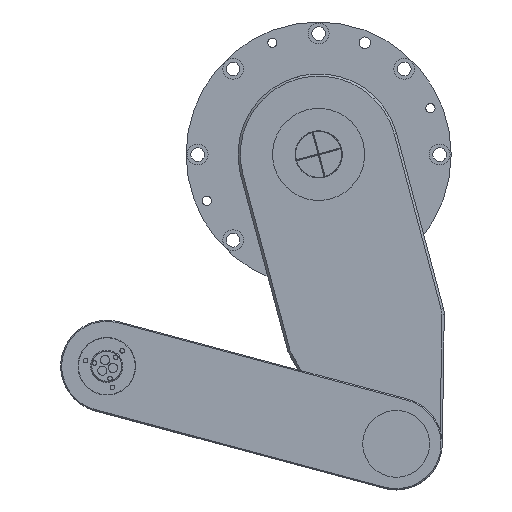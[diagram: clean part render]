
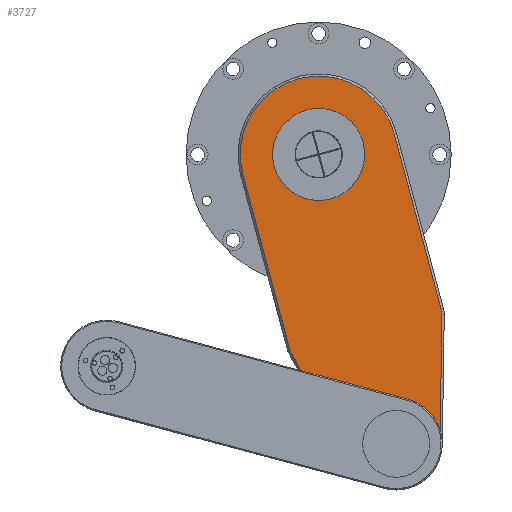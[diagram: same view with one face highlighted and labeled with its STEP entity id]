
A CAD part, top view. The second image highlights one B-rep face of the part: STEP entity #3727.
In plain terms, the highlighted planar face has unit normal (0, 0, 1).
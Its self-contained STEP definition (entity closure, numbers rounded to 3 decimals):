
#216=PLANE('',#4239);
#324=LINE('',#6679,#454);
#330=LINE('',#6694,#460);
#334=LINE('',#6705,#464);
#338=LINE('',#6717,#468);
#454=VECTOR('',#5295,112.539);
#460=VECTOR('',#5309,157.214);
#464=VECTOR('',#5321,157.214);
#468=VECTOR('',#5333,112.539);
#674=FACE_BOUND('',#1392,.T.);
#675=FACE_BOUND('',#1393,.T.);
#941=FACE_OUTER_BOUND('',#1391,.T.);
#1391=EDGE_LOOP('',(#3198,#3199,#3200,#3201,#3202,#3203,#3204,#3205));
#1392=EDGE_LOOP('',(#3206));
#1393=EDGE_LOOP('',(#3207));
#1701=CIRCLE('',#4222,18.);
#1703=CIRCLE('',#4226,68.);
#1705=CIRCLE('',#4230,18.);
#1707=CIRCLE('',#4234,38.);
#1708=CIRCLE('',#4240,40.);
#1709=CIRCLE('',#4241,30.);
#2007=VERTEX_POINT('',#6676);
#2008=VERTEX_POINT('',#6678);
#2010=VERTEX_POINT('',#6684);
#2012=VERTEX_POINT('',#6690);
#2014=VERTEX_POINT('',#6697);
#2015=VERTEX_POINT('',#6701);
#2017=VERTEX_POINT('',#6707);
#2019=VERTEX_POINT('',#6713);
#2021=VERTEX_POINT('',#6731);
#2022=VERTEX_POINT('',#6733);
#2397=EDGE_CURVE('',#2007,#2008,#324,.T.);
#2402=EDGE_CURVE('',#2008,#2010,#1701,.T.);
#2405=EDGE_CURVE('',#2010,#2012,#330,.T.);
#2407=EDGE_CURVE('',#2012,#2014,#1703,.T.);
#2411=EDGE_CURVE('',#2014,#2015,#334,.T.);
#2414=EDGE_CURVE('',#2015,#2017,#1705,.T.);
#2417=EDGE_CURVE('',#2017,#2019,#338,.T.);
#2419=EDGE_CURVE('',#2019,#2007,#1707,.T.);
#2425=EDGE_CURVE('',#2021,#2021,#1708,.T.);
#2426=EDGE_CURVE('',#2022,#2022,#1709,.T.);
#3198=ORIENTED_EDGE('',*,*,#2397,.F.);
#3199=ORIENTED_EDGE('',*,*,#2419,.F.);
#3200=ORIENTED_EDGE('',*,*,#2417,.F.);
#3201=ORIENTED_EDGE('',*,*,#2414,.F.);
#3202=ORIENTED_EDGE('',*,*,#2411,.F.);
#3203=ORIENTED_EDGE('',*,*,#2407,.F.);
#3204=ORIENTED_EDGE('',*,*,#2405,.F.);
#3205=ORIENTED_EDGE('',*,*,#2402,.F.);
#3206=ORIENTED_EDGE('',*,*,#2425,.T.);
#3207=ORIENTED_EDGE('',*,*,#2426,.T.);
#3727=ADVANCED_FACE('',(#941,#674,#675),#216,.T.);
#4222=AXIS2_PLACEMENT_3D('',#6688,#5303,#5304);
#4226=AXIS2_PLACEMENT_3D('',#6698,#5314,#5315);
#4230=AXIS2_PLACEMENT_3D('',#6711,#5327,#5328);
#4234=AXIS2_PLACEMENT_3D('',#6720,#5338,#5339);
#4239=AXIS2_PLACEMENT_3D('',#6730,#5353,#5354);
#4240=AXIS2_PLACEMENT_3D('',#6732,#5355,#5356);
#4241=AXIS2_PLACEMENT_3D('',#6734,#5357,#5358);
#5295=DIRECTION('',(-0.962,-0.273,0.));
#5303=DIRECTION('center_axis',(0.,0.,-1.));
#5304=DIRECTION('ref_axis',(0.,-1.,0.));
#5309=DIRECTION('',(-1.,0.,0.));
#5314=DIRECTION('center_axis',(0.,0.,-1.));
#5315=DIRECTION('ref_axis',(0.,1.,0.));
#5321=DIRECTION('',(1.,0.,0.));
#5327=DIRECTION('center_axis',(0.,0.,-1.));
#5328=DIRECTION('ref_axis',(0.273,0.962,0.));
#5333=DIRECTION('',(0.962,-0.273,0.));
#5338=DIRECTION('center_axis',(0.,0.,-1.));
#5339=DIRECTION('ref_axis',(0.273,-0.962,0.));
#5353=DIRECTION('center_axis',(0.,0.,1.));
#5354=DIRECTION('ref_axis',(1.,0.,0.));
#5355=DIRECTION('center_axis',(0.,0.,-1.));
#5356=DIRECTION('ref_axis',(-1.,0.,0.));
#5357=DIRECTION('center_axis',(0.,0.,-1.));
#5358=DIRECTION('ref_axis',(-1.,0.,0.));
#6676=CARTESIAN_POINT('',(270.387,-36.553,28.));
#6678=CARTESIAN_POINT('',(162.134,-67.315,28.));
#6679=CARTESIAN_POINT('',(201.048,-56.256,28.));
#6684=CARTESIAN_POINT('',(157.214,-68.,28.));
#6688=CARTESIAN_POINT('Origin',(157.214,-50.,28.));
#6690=CARTESIAN_POINT('',(0.,-68.,28.));
#6694=CARTESIAN_POINT('',(133.669,-68.,28.));
#6697=CARTESIAN_POINT('',(0.,68.,28.));
#6698=CARTESIAN_POINT('Origin',(0.,0.,28.));
#6701=CARTESIAN_POINT('',(157.214,68.,28.));
#6705=CARTESIAN_POINT('',(55.062,68.,28.));
#6707=CARTESIAN_POINT('',(162.134,67.315,28.));
#6711=CARTESIAN_POINT('Origin',(157.214,50.,28.));
#6713=CARTESIAN_POINT('',(270.387,36.553,28.));
#6717=CARTESIAN_POINT('',(146.922,71.637,28.));
#6720=CARTESIAN_POINT('Origin',(260.,0.,28.));
#6730=CARTESIAN_POINT('Origin',(110.125,0.,28.));
#6731=CARTESIAN_POINT('',(40.,0.,28.));
#6732=CARTESIAN_POINT('Origin',(0.,0.,28.));
#6733=CARTESIAN_POINT('',(290.,0.,28.));
#6734=CARTESIAN_POINT('Origin',(260.,0.,28.));
